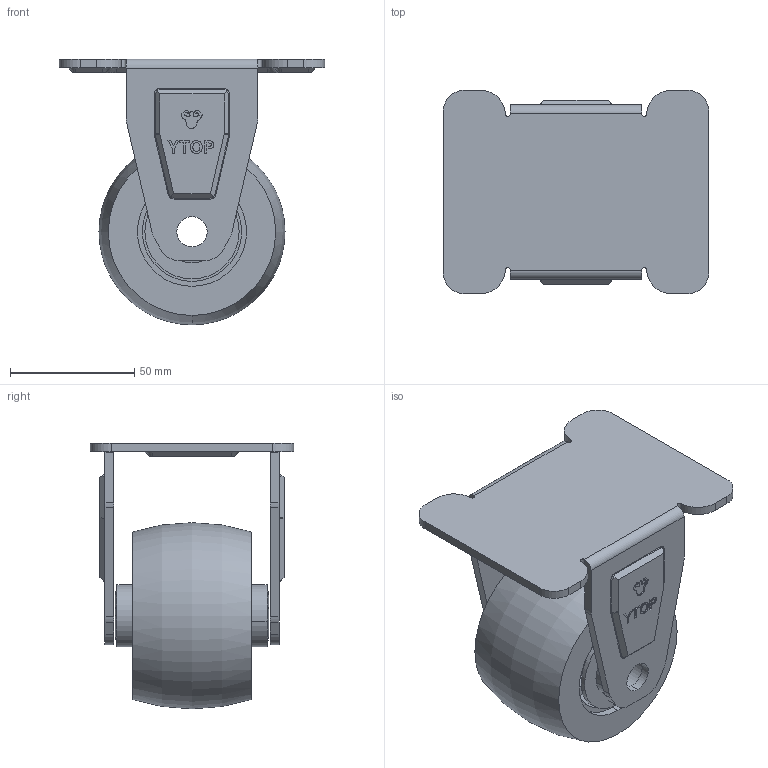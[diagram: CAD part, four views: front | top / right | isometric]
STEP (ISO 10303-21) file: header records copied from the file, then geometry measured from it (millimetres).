
FILE_DESCRIPTION (( 'STEP AP214' ), '1' );
FILE_NAME ('中重型低重心3寸固定轮.STEP', '2023-12-29T09:41:49', ( '' ), ( '' ), 'SwSTEP 2.0', 'SolidWorks 2016', '' );
FILE_SCHEMA (( 'AUTOMOTIVE_DESIGN' ));
Length unit declared in the file: millimetre
Products named in the file (1): 中重型低重心3寸固定轮
Bounding box: 107 x 82 x 107.05 mm (x, y, z)
Volume: 212217 mm3; surface area: 60274.4 mm2
Topology: 4 solids, 4 shells, 444 faces, 1196 edges, 786 vertices
Faces by surface type: bspline 208, plane 144, cylinder 68, cone 22, torus 2
Entity records: 22943 total; most frequent: CARTESIAN_POINT 8149, ORIENTED_EDGE 2392, DIRECTION 1438, EDGE_CURVE 1196, VERTEX_POINT 786, LINE 584, VECTOR 584, EDGE_LOOP 480
